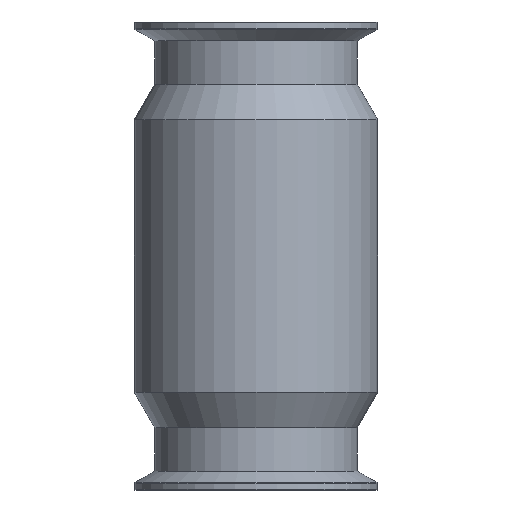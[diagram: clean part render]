
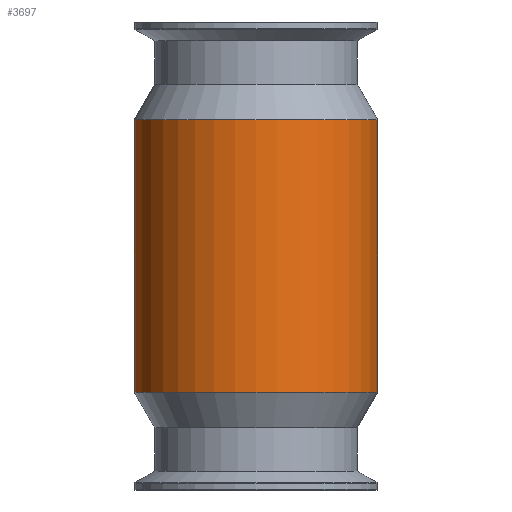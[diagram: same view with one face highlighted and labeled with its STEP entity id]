
A CAD part, front view. The second image highlights one B-rep face of the part: STEP entity #3697.
In plain terms, the highlighted cylindrical face has radius 39 mm (diameter 78 mm), a full revolution.
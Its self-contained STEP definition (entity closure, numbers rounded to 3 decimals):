
#2277=FACE_BOUND('',#5569,.T.);
#2278=FACE_BOUND('',#5570,.T.);
#2279=FACE_BOUND('',#5571,.T.);
#2466=CYLINDRICAL_SURFACE('',#16135,39.);
#2878=CIRCLE('',#16133,39.);
#2879=CIRCLE('',#16134,39.);
#3697=ADVANCED_FACE('',(#2277,#2278,#2279),#2466,.T.);
#5569=EDGE_LOOP('',(#9832));
#5570=EDGE_LOOP('',(#9833));
#5571=EDGE_LOOP('',(#9834,#9835,#9836,#9837,#9838,#9839,#9840,#9841));
#6357=B_SPLINE_CURVE_WITH_KNOTS('',3,(#33388,#33389,#33390,#33391),
 .UNSPECIFIED.,.F.,.F.,(4,4),(0.,1.),.UNSPECIFIED.);
#6358=B_SPLINE_CURVE_WITH_KNOTS('',3,(#33393,#33394,#33395,#33396),
 .UNSPECIFIED.,.F.,.F.,(4,4),(0.,1.),.UNSPECIFIED.);
#6359=B_SPLINE_CURVE_WITH_KNOTS('',3,(#33398,#33399,#33400,#33401),
 .UNSPECIFIED.,.F.,.F.,(4,4),(0.,1.),.UNSPECIFIED.);
#6360=B_SPLINE_CURVE_WITH_KNOTS('',3,(#33405,#33406,#33407,#33408),
 .UNSPECIFIED.,.F.,.F.,(4,4),(0.,1.),.UNSPECIFIED.);
#6361=B_SPLINE_CURVE_WITH_KNOTS('',3,(#33410,#33411,#33412,#33413),
 .UNSPECIFIED.,.F.,.F.,(4,4),(0.,1.),.UNSPECIFIED.);
#6362=B_SPLINE_CURVE_WITH_KNOTS('',3,(#33415,#33416,#33417,#33418),
 .UNSPECIFIED.,.F.,.F.,(4,4),(0.,1.),.UNSPECIFIED.);
#9832=ORIENTED_EDGE('',*,*,#13236,.T.);
#9833=ORIENTED_EDGE('',*,*,#13237,.T.);
#9834=ORIENTED_EDGE('',*,*,#13238,.T.);
#9835=ORIENTED_EDGE('',*,*,#13239,.T.);
#9836=ORIENTED_EDGE('',*,*,#13240,.T.);
#9837=ORIENTED_EDGE('',*,*,#13241,.T.);
#9838=ORIENTED_EDGE('',*,*,#13242,.T.);
#9839=ORIENTED_EDGE('',*,*,#13243,.T.);
#9840=ORIENTED_EDGE('',*,*,#13244,.T.);
#9841=ORIENTED_EDGE('',*,*,#13245,.T.);
#11380=VERTEX_POINT('',#33382);
#11381=VERTEX_POINT('',#33384);
#11382=VERTEX_POINT('',#33386);
#11383=VERTEX_POINT('',#33387);
#11384=VERTEX_POINT('',#33392);
#11385=VERTEX_POINT('',#33397);
#11386=VERTEX_POINT('',#33402);
#11387=VERTEX_POINT('',#33404);
#11388=VERTEX_POINT('',#33409);
#11389=VERTEX_POINT('',#33414);
#13236=EDGE_CURVE('',#11380,#11380,#2878,.T.);
#13237=EDGE_CURVE('',#11381,#11381,#2879,.T.);
#13238=EDGE_CURVE('',#11382,#11383,#14217,.T.);
#13239=EDGE_CURVE('',#11383,#11384,#6357,.T.);
#13240=EDGE_CURVE('',#11384,#11385,#6358,.T.);
#13241=EDGE_CURVE('',#11385,#11386,#6359,.T.);
#13242=EDGE_CURVE('',#11386,#11387,#14218,.T.);
#13243=EDGE_CURVE('',#11387,#11388,#6360,.T.);
#13244=EDGE_CURVE('',#11388,#11389,#6361,.T.);
#13245=EDGE_CURVE('',#11389,#11382,#6362,.T.);
#14217=LINE('',#33385,#15200);
#14218=LINE('',#33403,#15201);
#15200=VECTOR('',#19104,1.);
#15201=VECTOR('',#19105,1.);
#16133=AXIS2_PLACEMENT_3D('',#33381,#19100,#19101);
#16134=AXIS2_PLACEMENT_3D('',#33383,#19102,#19103);
#16135=AXIS2_PLACEMENT_3D('',#33419,#19106,#19107);
#19100=DIRECTION('',(0.,0.,1.));
#19101=DIRECTION('',(-1.,0.,0.));
#19102=DIRECTION('',(0.,0.,-1.));
#19103=DIRECTION('',(1.,0.,0.));
#19104=DIRECTION('',(0.,0.,1.));
#19105=DIRECTION('',(0.,0.,-1.));
#19106=DIRECTION('',(0.,0.,1.));
#19107=DIRECTION('',(-1.,0.,0.));
#33381=CARTESIAN_POINT('',(-0.031,-22.,110.258));
#33382=CARTESIAN_POINT('',(-39.031,-22.,110.258));
#33383=CARTESIAN_POINT('',(-0.031,-22.,197.742));
#33384=CARTESIAN_POINT('',(38.969,-22.,197.742));
#33385=CARTESIAN_POINT('',(8.744,16.,-3104.));
#33386=CARTESIAN_POINT('',(8.744,16.,132.743));
#33387=CARTESIAN_POINT('',(8.744,16.,153.257));
#33388=CARTESIAN_POINT('',(8.744,16.,153.257));
#33389=CARTESIAN_POINT('',(7.537,16.279,155.04));
#33390=CARTESIAN_POINT('',(5.897,16.598,156.497));
#33391=CARTESIAN_POINT('',(3.913,16.8,157.366));
#33392=CARTESIAN_POINT('',(3.913,16.8,157.366));
#33393=CARTESIAN_POINT('',(3.913,16.8,157.366));
#33394=CARTESIAN_POINT('',(1.358,17.06,158.213));
#33395=CARTESIAN_POINT('',(-1.422,17.06,158.209));
#33396=CARTESIAN_POINT('',(-3.976,16.8,157.356));
#33397=CARTESIAN_POINT('',(-3.976,16.8,157.356));
#33398=CARTESIAN_POINT('',(-3.976,16.8,157.356));
#33399=CARTESIAN_POINT('',(-5.964,16.598,156.479));
#33400=CARTESIAN_POINT('',(-7.601,16.278,155.015));
#33401=CARTESIAN_POINT('',(-8.806,16.,153.221));
#33402=CARTESIAN_POINT('',(-8.806,16.,153.221));
#33403=CARTESIAN_POINT('',(-8.806,16.,-3104.));
#33404=CARTESIAN_POINT('',(-8.806,16.,132.779));
#33405=CARTESIAN_POINT('',(-8.806,16.,132.779));
#33406=CARTESIAN_POINT('',(-7.602,16.278,130.987));
#33407=CARTESIAN_POINT('',(-5.962,16.598,129.52));
#33408=CARTESIAN_POINT('',(-3.976,16.8,128.644));
#33409=CARTESIAN_POINT('',(-3.976,16.8,128.644));
#33410=CARTESIAN_POINT('',(-3.976,16.8,128.644));
#33411=CARTESIAN_POINT('',(-1.422,17.06,127.791));
#33412=CARTESIAN_POINT('',(1.358,17.06,127.787));
#33413=CARTESIAN_POINT('',(3.913,16.8,128.634));
#33414=CARTESIAN_POINT('',(3.913,16.8,128.634));
#33415=CARTESIAN_POINT('',(3.913,16.8,128.634));
#33416=CARTESIAN_POINT('',(5.899,16.598,129.504));
#33417=CARTESIAN_POINT('',(7.536,16.279,130.959));
#33418=CARTESIAN_POINT('',(8.744,16.,132.743));
#33419=CARTESIAN_POINT('',(-0.031,-22.,-3104.));
